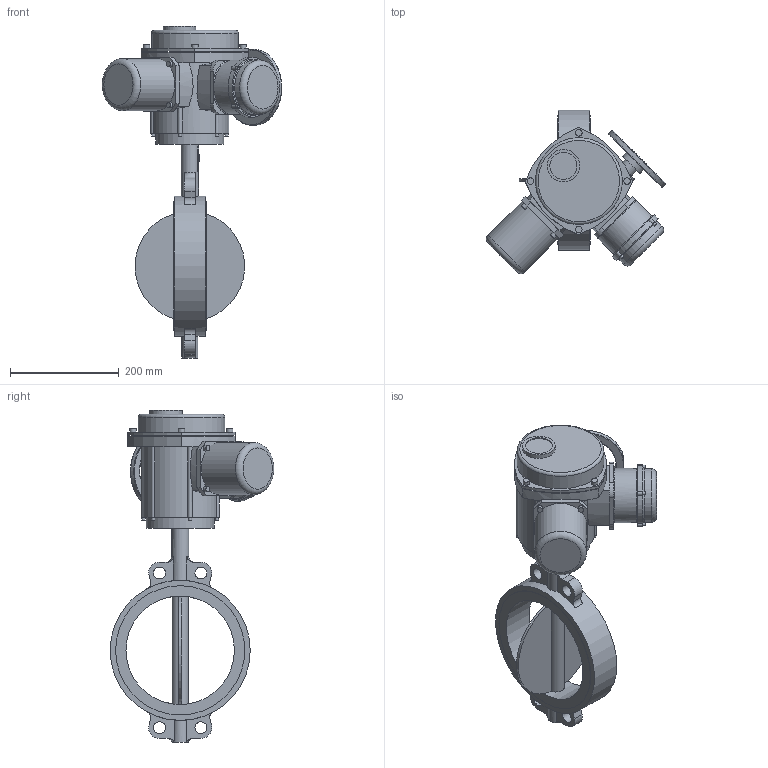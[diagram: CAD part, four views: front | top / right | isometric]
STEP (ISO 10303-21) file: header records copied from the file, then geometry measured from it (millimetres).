
FILE_DESCRIPTION(('STEP AP203'), '1');
FILE_NAME('青蜮铕 017W.Y_DN200_PN16_QT.Z 30', '', ('UNSPECIFIED'), ('UNSPECIFIED'), 'ASCON STEP Converter 1.6', 'ASCON Math Kernel', '');
FILE_SCHEMA(('CONFIG_CONTROL_DESIGN'));
Length unit declared in the file: millimetre
Bounding box: 330.59 x 301.71 x 612 mm (x, y, z)
Volume: 7395910.9 mm3; surface area: 556031.4 mm2
Topology: 1 solids, 1 shells, 308 faces, 733 edges, 457 vertices
Faces by surface type: cylinder 141, plane 106, torus 45, cone 8, bspline 8
Full cylindrical faces by diameter (mm): 6 x10, 8.376 x4, 10 x4, 12 x8, 12.386 x1, 22 x4, 30 x1, 32 x1, 45 x1, 50 x1, 60 x1, 96 x1, 100 x2, 125 x1, 140 x1, 160 x1, 200 x1, 238.2 x2, 258.2 x1
Entity records: 13778 total; most frequent: CARTESIAN_POINT 4238, DIRECTION 1572, ORIENTED_EDGE 1316, AXIS2_PLACEMENT_3D 663, EDGE_CURVE 658, VERTEX_POINT 452, EDGE_LOOP 428, CIRCLE 362
